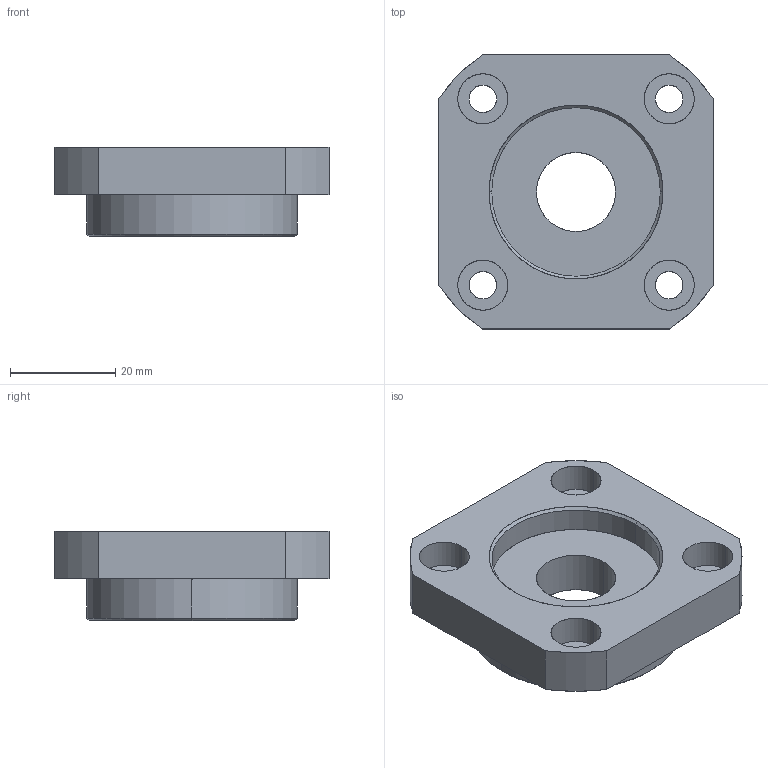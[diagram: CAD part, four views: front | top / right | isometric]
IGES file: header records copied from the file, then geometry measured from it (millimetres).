
Start section: SolidWorks IGES file using analytic representation for surfaces
Global section: file name: E:\同创达图纸\产品示意图\3D选型图\支撑座\FF系列\FF15.IGS; native system: SolidWorks 2012; preprocessor: SolidWorks 2012; author: gao; date: 130702.203702; units: millimetre
Bounding box: 52 x 52 x 17 mm (x, y, z)
Surface area: 9420.9 mm2 (no closed solid volume)
Topology: 0 solids, 0 shells, 47 faces, 1152 edges, 1152 vertices
Faces by surface type: revolution 34, bspline 13
